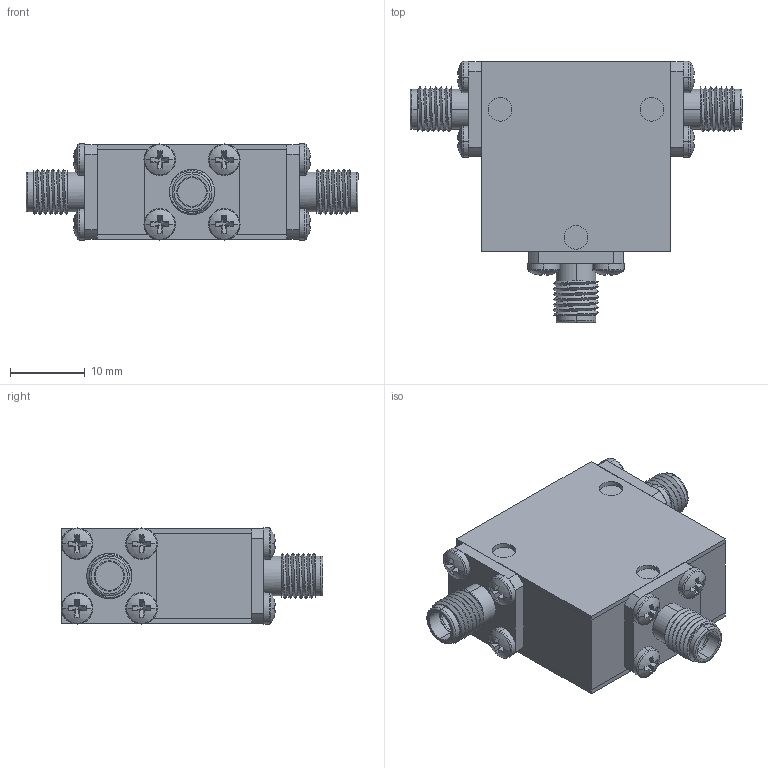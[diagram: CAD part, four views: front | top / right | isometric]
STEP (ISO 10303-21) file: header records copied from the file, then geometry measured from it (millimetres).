
FILE_DESCRIPTION (( 'STEP AP214' ), '1' );
FILE_NAME ('Package 3 Circ FFF.step', '2021-12-01T21:00:03', ( '' ), ( '' ), 'SwSTEP 2.0', 'SolidWorks 2016', '' );
FILE_SCHEMA (( 'AUTOMOTIVE_DESIGN' ));
Length unit declared in the file: inch
Products named in the file (5): pan cross head_ai_CR-PHMS 0.086-56x0.125x0.125-N; Delta SMA-Female 0.500 flange Threaded; Package Size 3; Package 3 Circ FFF; Package 3
Assembly tree (17 placements, depth 2):
  Package 3 Circ FFF
    Package 3
    Package Size 3
    Delta SMA-Female 0.500 flange Threaded  x3
    pan cross head_ai_CR-PHMS 0.086-56x0.125x0.125-N  x12
Bounding box: 44.45 x 35.01 x 12.88 mm (x, y, z)
Volume: 9371.8 mm3; surface area: 8488.7 mm2
Topology: 17 solids, 17 shells, 421 faces, 957 edges, 591 vertices
Faces by surface type: plane 232, cylinder 126, torus 30, sphere 24, bspline 9
Entity records: 3729 total; most frequent: CARTESIAN_POINT 1205, DIRECTION 527, ORIENTED_EDGE 434, EDGE_CURVE 217, AXIS2_PLACEMENT_3D 211, VERTEX_POINT 139, EDGE_LOOP 116, VECTOR 105
